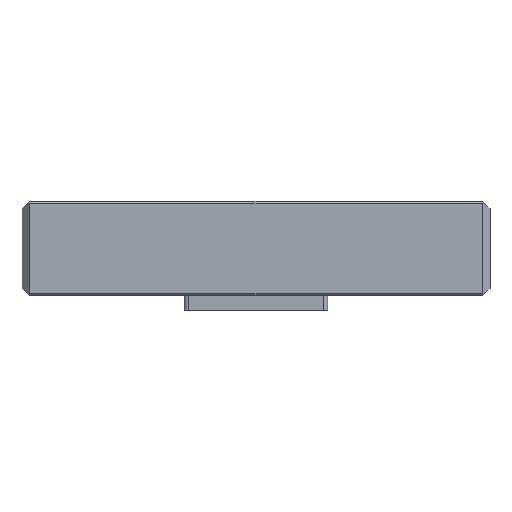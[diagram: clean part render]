
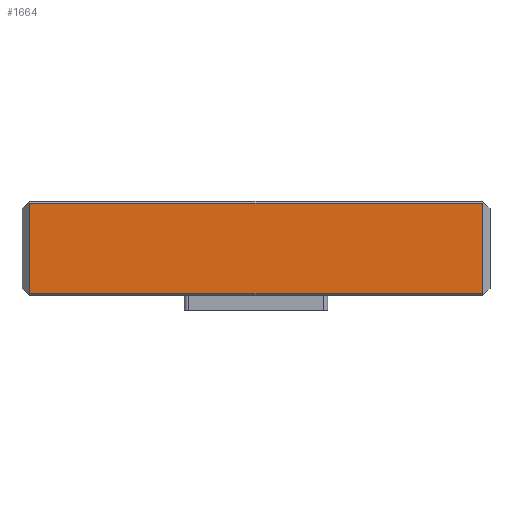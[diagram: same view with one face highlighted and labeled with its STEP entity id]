
A CAD part, top view. The second image highlights one B-rep face of the part: STEP entity #1664.
In plain terms, the highlighted planar face has unit normal (0, 0, 1).
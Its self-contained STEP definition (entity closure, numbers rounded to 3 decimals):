
#537=DIRECTION('',(-1.,0.,0.));
#538=VECTOR('',#537,120.);
#539=CARTESIAN_POINT('',(122.,0.5,0.));
#540=LINE('',#539,#538);
#541=DIRECTION('',(0.,1.,0.));
#542=VECTOR('',#541,24.);
#543=CARTESIAN_POINT('',(2.,0.5,0.));
#544=LINE('',#543,#542);
#553=DIRECTION('',(1.,0.,0.));
#554=VECTOR('',#553,120.);
#555=CARTESIAN_POINT('',(2.,24.5,0.));
#556=LINE('',#555,#554);
#573=DIRECTION('',(0.,-1.,0.));
#574=VECTOR('',#573,24.);
#575=CARTESIAN_POINT('',(122.,24.5,0.));
#576=LINE('',#575,#574);
#625=CARTESIAN_POINT('',(2.,0.5,0.));
#626=CARTESIAN_POINT('',(2.,24.5,0.));
#627=VERTEX_POINT('',#625);
#628=VERTEX_POINT('',#626);
#629=CARTESIAN_POINT('',(122.,24.5,0.));
#630=VERTEX_POINT('',#629);
#631=CARTESIAN_POINT('',(122.,0.5,0.));
#632=VERTEX_POINT('',#631);
#1653=CARTESIAN_POINT('',(62.,12.5,0.));
#1654=DIRECTION('',(0.,0.,-1.));
#1655=DIRECTION('',(1.,0.,0.));
#1656=AXIS2_PLACEMENT_3D('',#1653,#1654,#1655);
#1657=PLANE('',#1656);
#1658=ORIENTED_EDGE('',*,*,#1584,.T.);
#1659=ORIENTED_EDGE('',*,*,#1602,.T.);
#1660=ORIENTED_EDGE('',*,*,#1627,.T.);
#1661=ORIENTED_EDGE('',*,*,#1643,.T.);
#1662=EDGE_LOOP('',(#1658,#1659,#1660,#1661));
#1663=FACE_OUTER_BOUND('',#1662,.F.);
#1664=ADVANCED_FACE('',(#1663),#1657,.F.);
#1584=EDGE_CURVE('',#632,#627,#540,.T.);
#1602=EDGE_CURVE('',#627,#628,#544,.T.);
#1627=EDGE_CURVE('',#628,#630,#556,.T.);
#1643=EDGE_CURVE('',#630,#632,#576,.T.);
